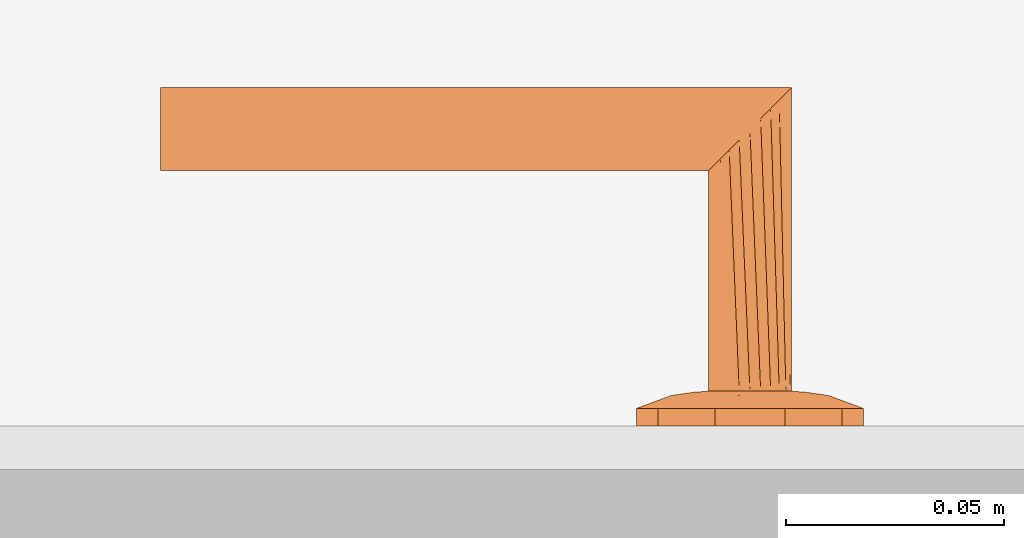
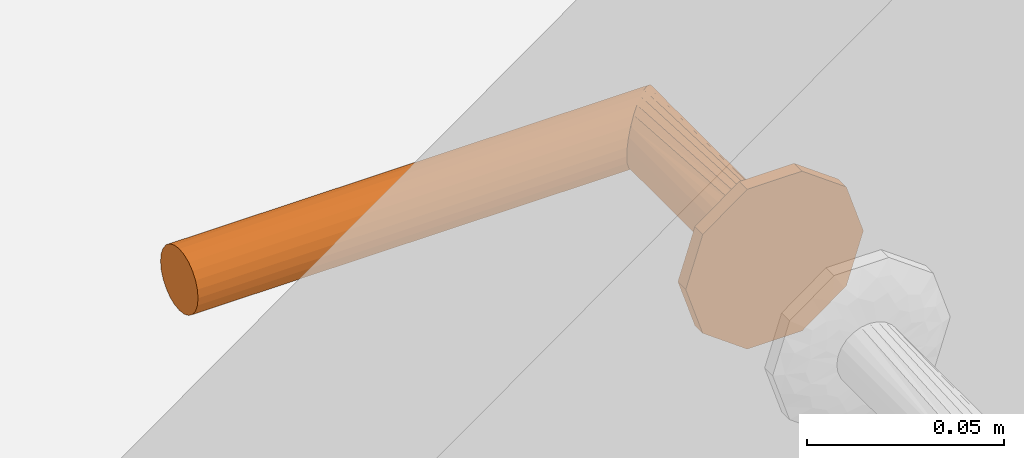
# One storey, part 36 of 42: 1 proxy.
"""IFC2X3 building model written with IfcOpenShell, lengths in millimetres."""

import ifcopenshell
import ifcopenshell.guid

model = None  # the IFC model being written
_history = None  # IfcOwnerHistory: only IFC2X3 demands one
_inside = {}  # id of a spatial element -> (the spatial element, [elements in it])
_under = {}  # id of a project, library or spatial element -> (it, [spatial elements below it])
_declared = {}  # id of a project -> (the project, [libraries it declares])
_typed = {}  # id of a type object -> (the type object, [elements of that type])
_made_of = {}  # id of a material, layer set ... -> (it, [elements and type objects made of it])


def new_model(schema):
    """Start an empty IFC model of exactly this schema.

    Asked for "IFC4X3", IfcOpenShell would pick the latest addendum, in which some entities
    have other attributes; the version numbers below select the first issue.
    IFC2X3 requires an IfcOwnerHistory on every rooted entity: one is made here for all.
    """
    global model, _history
    if schema == "IFC4X3":
        model = ifcopenshell.file(schema_version=(4, 3, 0, 0))
    else:
        model = ifcopenshell.file(schema=schema)
    _inside.clear()
    _under.clear()
    _declared.clear()
    _typed.clear()
    _made_of.clear()
    _history = None
    if model.schema == "IFC2X3":
        org = make("IfcOrganization", Name="unknown")
        user = make(
            "IfcPersonAndOrganization",
            ThePerson=make("IfcPerson", FamilyName="unknown"),
            TheOrganization=org,
        )
        app = make(
            "IfcApplication",
            ApplicationDeveloper=org,
            Version="unknown",
            ApplicationFullName="unknown",
            ApplicationIdentifier="unknown",
        )
        _history = make(
            "IfcOwnerHistory",
            OwningUser=user,
            OwningApplication=app,
            ChangeAction="ADDED",
            CreationDate=0,
        )
    return model


def make(cls, **values):
    """One entity of the class cls with the attributes given. An attribute that is None is left unset."""
    return model.create_entity(
        cls, **{name: value for name, value in values.items() if value is not None}
    )


def entity(cls, *values):
    """Any entity or typed value of the class cls, its attributes in the order of the schema. None: left unset."""
    e = model.create_entity(cls)
    for i, value in enumerate(values):
        if value is not None:
            e[i] = value
    return e


def rooted(cls, **values):
    """An entity with a GlobalId (a new one), such as an element, a storey or a relation."""
    return make(cls, GlobalId=ifcopenshell.guid.new(), OwnerHistory=_history, **values)


def si_unit(unit_type, name, prefix=None):
    """IfcSIUnit, for example si_unit("LENGTHUNIT", "METRE", prefix="MILLI")."""
    return make("IfcSIUnit", UnitType=unit_type, Prefix=prefix, Name=name)


def converted_unit(unit_type, name, factor, base, dimensions=None, offset=None):
    """IfcConversionBasedUnit, such as the inch: factor (a typed value) times the base unit."""
    return make(
        "IfcConversionBasedUnit"
        if offset is None
        else "IfcConversionBasedUnitWithOffset",
        ConversionOffset=offset,
        Dimensions=None
        if dimensions is None
        else entity("IfcDimensionalExponents", *dimensions),
        UnitType=unit_type,
        Name=name,
        ConversionFactor=make(
            "IfcMeasureWithUnit", ValueComponent=factor, UnitComponent=base
        ),
    )


def assignment(units):
    """IfcUnitAssignment: the units of a project."""
    return None if units is None else make("IfcUnitAssignment", Units=units)


def point(xyz):
    """IfcCartesianPoint."""
    return None if xyz is None else make("IfcCartesianPoint", Coordinates=xyz)


def direction(xyz):
    """IfcDirection."""
    return None if xyz is None else make("IfcDirection", DirectionRatios=xyz)


def frame(location, z_axis=None, x_axis=None):
    """IfcAxis2Placement3D, a coordinate frame: its origin and axes. An axis left out is left unset."""
    return make(
        "IfcAxis2Placement3D",
        Location=point(location),
        Axis=direction(z_axis),
        RefDirection=direction(x_axis),
    )


def origin():
    """The frame at (0, 0, 0) with its axes left unset."""
    return frame((0.0, 0.0, 0.0))


def place(relative_to, where):
    """IfcLocalPlacement: puts the frame where relative to a parent placement (None: the world)."""
    return make(
        "IfcLocalPlacement", PlacementRelTo=relative_to, RelativePlacement=where
    )


def context(
    kind, dimensions, precision=None, world=None, true_north=None, identifier=None
):
    """IfcGeometricRepresentationContext, for example the 3D "Model" context."""
    return make(
        "IfcGeometricRepresentationContext",
        ContextIdentifier=identifier,
        ContextType=kind,
        CoordinateSpaceDimension=dimensions,
        Precision=precision,
        WorldCoordinateSystem=world,
        TrueNorth=true_north,
    )


def subcontext(parent, identifier, kind, view, scale=None):
    """IfcGeometricRepresentationSubContext, for example "Body" below "Model"."""
    return make(
        "IfcGeometricRepresentationSubContext",
        ContextIdentifier=identifier,
        ContextType=kind,
        ParentContext=parent,
        TargetScale=scale,
        TargetView=view,
    )


def project(units=None, contexts=None):
    """IfcProject with its units and contexts."""
    return rooted(
        "IfcProject",
        Name="project",
        RepresentationContexts=contexts,
        UnitsInContext=assignment(units),
    )


def spatial(cls, under=None, at=None, **own):
    """A site, building, storey or space (cls), placed at a placement, below another one or the project."""
    s = rooted(cls, ObjectPlacement=at, **own)
    if under is not None:
        _under.setdefault(under.id(), (under, []))[1].append(s)
    return s


def faces_of(points, faces, orient=None, outer=None):
    """IfcFace entities. A face is a list of loops; a loop is a list of indices into points, from 0.

    orient and outer hold one flag for each loop. By default every Orientation is true, the
    first loop of a face is its IfcFaceOuterBound and the others are IfcFaceBound.
    """
    made = []
    for i, loops in enumerate(faces):
        bounds = []
        for j, loop in enumerate(loops):
            is_outer = j == 0 if outer is None else outer[i][j]
            bounds.append(
                make(
                    "IfcFaceOuterBound" if is_outer else "IfcFaceBound",
                    Bound=make("IfcPolyLoop", Polygon=[points[k] for k in loop]),
                    Orientation=True if orient is None else orient[i][j],
                )
            )
        made.append(make("IfcFace", Bounds=bounds))
    return made


def faceted_brep(points, faces, orient=None, outer=None, voids=None):
    """IfcFacetedBrep: a solid bounded by flat faces; with voids (closed shells), ...WithVoids."""
    shared = [point(p) for p in points]
    hull = make("IfcClosedShell", CfsFaces=faces_of(shared, faces, orient, outer))
    if voids is None:
        return make("IfcFacetedBrep", Outer=hull)
    return make(
        "IfcFacetedBrepWithVoids",
        Outer=hull,
        Voids=[
            make(cls, CfsFaces=faces_of(shared, fs, o, b)) for cls, fs, o, b in voids
        ],
    )


def shape(context_of_items, identifier, shape_type, items):
    """IfcShapeRepresentation: the items that make up one representation, for example the "Body"."""
    return make(
        "IfcShapeRepresentation",
        ContextOfItems=context_of_items,
        RepresentationIdentifier=identifier,
        RepresentationType=shape_type,
        Items=items,
    )


def source(mapping_origin, context_of_items, identifier, shape_type, items):
    """IfcRepresentationMap: a shape defined once, which mapped items show again and again."""
    return make(
        "IfcRepresentationMap",
        MappingOrigin=mapping_origin,
        MappedRepresentation=shape(context_of_items, identifier, shape_type, items),
    )


def transform(
    local_origin,
    x_axis=None,
    y_axis=None,
    z_axis=None,
    scale=None,
    scale2=None,
    scale3=None,
    uniform=True,
):
    """IfcCartesianTransformationOperator3D, or its non-uniform kind. x_axis, y_axis, z_axis: its Axis1, 2, 3."""
    if uniform:
        return make(
            "IfcCartesianTransformationOperator3D",
            Axis1=direction(x_axis),
            Axis2=direction(y_axis),
            LocalOrigin=point(local_origin),
            Scale=scale,
            Axis3=direction(z_axis),
        )
    return make(
        "IfcCartesianTransformationOperator3DnonUniform",
        Axis1=direction(x_axis),
        Axis2=direction(y_axis),
        LocalOrigin=point(local_origin),
        Scale=scale,
        Axis3=direction(z_axis),
        Scale2=scale2,
        Scale3=scale3,
    )


def mapped(mapping_source, mapping_target):
    """IfcMappedItem: shows the shape of a source again, moved by a transform."""
    return make(
        "IfcMappedItem", MappingSource=mapping_source, MappingTarget=mapping_target
    )


def material(Name=None, Category=None):
    """IfcMaterial."""
    return make("IfcMaterial", Name=Name, Category=Category)


def made_of(thing, what):
    """Note that an element or type object is made of a material, layer set ...; save() writes the relation."""
    if what is not None:
        _made_of.setdefault(what.id(), (what, []))[1].append(thing)
    return thing


def type_object(cls, material=None, **own):
    """A type object (cls), such as IfcWallType, which elements share."""
    return made_of(rooted(cls, **own), material)


def type_shapes(of_type, sources):
    """Give a type object the sources (RepresentationMaps) that its elements show as mapped items."""
    of_type.RepresentationMaps = sources


def element(
    cls,
    number,
    at=None,
    inside=None,
    cuts=None,
    type_object=None,
    material=None,
    context=None,
    identifier="Body",
    shape_type=None,
    held_by="IfcProductDefinitionShape",
    body=None,
    shapes=None,
    **own,
):
    """One element of the class cls, such as IfcWall. Its Tag is "e" and its number.

    at: its placement. inside: the storey or other place that contains it. cuts: it is an
    opening in that element (IfcRelVoidsElement). A single representation is given by context,
    identifier, shape_type and body (its items); several are given by shapes. held_by: the class
    of the entity that holds the representations. save() writes the other relations.
    """
    e = rooted(cls, Tag="e%d" % number, ObjectPlacement=at, **own)
    if body is not None:
        shapes = [shape(context, identifier, shape_type, body)]
    if shapes is not None:
        e.Representation = make(held_by, Representations=shapes)
    if inside is not None:
        _inside.setdefault(inside.id(), (inside, []))[1].append(e)
    if cuts is not None:
        rooted(
            "IfcRelVoidsElement", RelatingBuildingElement=cuts, RelatedOpeningElement=e
        )
    if type_object is not None:
        _typed.setdefault(type_object.id(), (type_object, []))[1].append(e)
    return made_of(e, material)


def aggregate(whole, parts):
    """IfcRelAggregates: a whole, such as a stair, and the parts it consists of."""
    return rooted("IfcRelAggregates", RelatingObject=whole, RelatedObjects=parts)


def save(model, path):
    """Write the relations noted so far, then the file.

    IfcRelAggregates (storeys below a building ...), IfcRelContainedInSpatialStructure (elements
    in a storey), IfcRelDefinesByType, IfcRelAssociatesMaterial and IfcRelDeclares: one each for
    every whole, place, type object, material and project.
    """
    for whole, parts in _under.values():
        aggregate(whole, parts)
    for where, things in _inside.values():
        rooted(
            "IfcRelContainedInSpatialStructure",
            RelatedElements=things,
            RelatingStructure=where,
        )
    for kind, things in _typed.values():
        rooted("IfcRelDefinesByType", RelatedObjects=things, RelatingType=kind)
    for what, things in _made_of.values():
        rooted("IfcRelAssociatesMaterial", RelatedObjects=things, RelatingMaterial=what)
    for by, libraries in _declared.values():
        rooted("IfcRelDeclares", RelatingContext=by, RelatedDefinitions=libraries)
    model.write(path)


model = new_model("IFC2X3")

# Units and contexts
model_context = context("Model", 3, precision=0.01, world=origin(), true_north=direction((6.123233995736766e-17, 1.0)))
plan_context = context("Plan", 3, precision=0.01, world=origin(), true_north=direction((6.123233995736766e-17, 1.0)))
body_context = subcontext(model_context, "Body", "Model", "MODEL_VIEW")
ifc_project = project(units=[si_unit("LENGTHUNIT", "METRE", prefix="MILLI"), converted_unit("PLANEANGLEUNIT", "DEGREE", entity("IfcPlaneAngleMeasure", 0.017453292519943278), si_unit("PLANEANGLEUNIT", "RADIAN"), dimensions=[0, 0, 0, 0, 0, 0, 0]), si_unit("AREAUNIT", "SQUARE_METRE")], contexts=[model_context, plan_context])

# Site, building, storey, space
site_placement = place(None, origin())
site = spatial("IfcSite", under=ifc_project, at=site_placement, Name="Default", CompositionType="ELEMENT")
building_placement = place(site_placement, origin())
building = spatial("IfcBuilding", under=site, at=building_placement, CompositionType="ELEMENT")
storey_placement = place(building_placement, frame((0.0, 0.0, 9465.000076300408)))
storey = spatial("IfcBuildingStorey", under=building, at=storey_placement, Name="4K", CompositionType="ELEMENT", Elevation=9465.000076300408)
space_placement = place(storey_placement, origin())
space = spatial("IfcSpace", under=storey, at=space_placement, Name="4-9.5", CompositionType="ELEMENT", InteriorOrExteriorSpace="INTERNAL")

# Proxy
ifc_material = material(Name="<Unnamed>")
building_element_proxy_type = type_object("IfcBuildingElementProxyType", Name="Door-handle_Lever_ABLOY_INOXI_3-19ss-002_RT:Default", PredefinedType="NOTDEFINED", material=ifc_material)
shared_shape = source(origin(), body_context, "Body", "Brep", [
    faceted_brep([(0.0, 0.0, 0.0), (8.034441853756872, 24.72746942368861, 0.0), (14.534441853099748, 20.00494299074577, 0.0), (21.034441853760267, 15.282416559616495, 0.0), (23.51722092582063, 7.641208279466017, 0.0), (26.0, 0.0, 0.0), (23.517220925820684, -7.641208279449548, 0.0), (0.0, 24.72746942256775, 0.0), (-8.034441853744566, 24.727469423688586, 0.0), (-14.534441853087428, 20.00494299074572, 0.0), (-21.03444185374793, 15.282416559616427, 0.0), (-23.517220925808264, 7.641208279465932, 0.0), (-26.0, 0.0, 0.0), (21.034441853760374, -15.282416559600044, 0.0), (14.534441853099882, -20.004942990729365, 0.0), (8.034441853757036, -24.72746942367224, 0.0), (0.0, -24.72746942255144, 0.0), (-23.517220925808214, -7.641208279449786, 0.0), (-21.034441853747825, -15.282416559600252, 0.0), (-14.53444185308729, -20.004942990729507, 0.0), (-8.0344418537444, -24.72746942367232, 0.0), (0.0, 0.0, 8.0), (9.500000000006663, 0.0, 8.0), (8.312500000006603, 2.056810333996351, 8.0), (7.125000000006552, 4.113620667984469, 8.0), (5.937500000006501, 6.170431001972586, 8.0), (4.7500000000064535, 8.227241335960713, 8.0), (2.375000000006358, 8.2272413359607, 8.0), (0.0, 8.227241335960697, 8.0), (-2.3749999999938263, 8.227241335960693, 8.0), (-4.749999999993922, 8.227241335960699, 8.0), (-5.937499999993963, 6.1704310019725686, 8.0), (-7.124999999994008, 4.1136206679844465, 8.0), (-8.312499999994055, 2.0568103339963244, 8.0), (-9.499999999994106, 0.0, 8.0), (-8.31249999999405, -2.0568103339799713, 8.0), (8.312500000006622, -2.0568103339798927, 8.0), (7.125000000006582, -4.113620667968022, 8.0), (5.937500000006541, -6.170431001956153, 8.0), (4.750000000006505, -8.227241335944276, 8.0), (-7.124999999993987, -4.113620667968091, 8.0), (-5.9374999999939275, -6.17043100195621, 8.0), (-4.74999999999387, -8.227241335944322, 8.0), (-2.374999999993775, -8.227241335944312, 8.0), (0.0, -8.227241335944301, 8.0), (2.3750000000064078, -8.227241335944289, 8.0), (-20.6430713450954, 6.292822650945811, 5.929480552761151), (-16.663919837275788, 7.932665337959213, 6.877259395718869), (-22.48876527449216, 10.806469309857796, 4.030771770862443), (-16.764060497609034, 3.8202578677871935, 7.1747985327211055), (-12.504579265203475, 5.179566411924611, 7.774932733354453), (-11.979136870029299, 13.678312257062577, 6.945778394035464), (-11.963426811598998, 8.62529041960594, 7.618343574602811), (-9.07172672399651, 10.31160661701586, 7.7520782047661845), (8.03444185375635, 24.727469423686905, 4.030771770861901), (0.0, 24.72746942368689, 4.030771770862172), (5.758554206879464, 20.96753300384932, 5.871476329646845), (20.643071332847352, 6.292822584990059, 5.929480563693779), (22.488765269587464, 10.806469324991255, 4.03077177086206), (16.66391982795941, 7.9326653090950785, 6.877259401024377), (9.49943163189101, 18.6436835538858, 6.154325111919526), (14.534441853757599, 20.004942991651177, 4.030771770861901), (-14.534441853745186, 20.00494299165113, 4.030771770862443), (-21.034441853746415, 15.282416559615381, 4.030771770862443), (-15.783149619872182, 11.991003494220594, 6.50080018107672), (-23.943088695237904, 6.330522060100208, 4.030771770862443), (-23.012042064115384, 0.0, 5.135401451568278), (12.50457924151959, 5.179566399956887, 7.774932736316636), (11.963426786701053, 8.625290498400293, 7.618343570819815), (16.76406041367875, 3.820257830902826, 7.17479855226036), (15.783149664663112, 11.991003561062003, 6.50080015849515), (23.01204200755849, 0.0, 5.135401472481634), (17.9853516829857, 0.0, 6.993737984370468), (8.661516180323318, 10.478936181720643, 7.768126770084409), (-3.3573143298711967, 21.197247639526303, 5.971427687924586), (-8.03444185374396, 24.727469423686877, 4.030771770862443), (-7.711266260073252, 12.76034452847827, 7.594456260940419), (-5.97325794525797, 16.43013906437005, 7.110979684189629), (-9.94191586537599, 17.061976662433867, 6.522757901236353), (11.979136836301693, 13.678312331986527, 6.945778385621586), (5.953298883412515, 16.50608604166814, 7.096344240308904), (7.511307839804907, 13.358932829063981, 7.529187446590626), (-1.5654593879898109, 15.307443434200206, 7.519134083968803), (-7.784980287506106, 20.476295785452, 5.812837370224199), (2.8135289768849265, 17.763922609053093, 6.993737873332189), (-17.985351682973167, 0.0, 6.993737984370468), (-26.0, 0.0, 4.030771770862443), (-23.51722092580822, 7.641208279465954, 4.030771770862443), (26.0, 0.0, 4.030771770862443), (24.308823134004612, 5.204907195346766, 4.030771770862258), (23.943088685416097, 6.330522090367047, 4.030771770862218), (21.03444185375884, 15.282416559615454, 4.030771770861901), (22.617646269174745, 10.40981439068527, 4.030771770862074), (20.6430713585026, -6.292822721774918, 5.929480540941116), (16.663919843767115, -7.932665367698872, 6.877259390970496), (22.48876527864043, -10.8064692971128, 4.030771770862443), (16.764060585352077, -3.8202579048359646, 7.174798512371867), (12.504579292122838, -5.17956641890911, 7.774932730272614), (11.979136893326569, -13.678312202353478, 6.9457784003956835), (11.963426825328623, -8.62529034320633, 7.618343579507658), (9.071726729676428, -10.311606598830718, 7.752078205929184), (-8.03444185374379, -24.727469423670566, 4.030771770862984), (0.0, -24.727469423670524, 4.030771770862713), (-5.758554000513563, -20.96753314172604, 5.8714763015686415), (-20.643071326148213, -6.292822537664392, 5.929480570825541), (-22.488765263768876, -10.80646934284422, 4.030771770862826), (-16.66391981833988, -7.932665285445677, 6.877259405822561), (-9.499431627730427, -18.643683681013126, 6.154325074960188), (-14.534441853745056, -20.004942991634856, 4.030771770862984), (14.53444185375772, -20.00494299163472, 4.030771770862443), (21.034441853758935, -15.282416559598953, 4.030771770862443), (15.783149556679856, -11.991003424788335, 6.5008002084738), (23.943088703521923, -6.330522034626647, 4.030771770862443), (-12.504579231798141, -5.17956638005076, 7.77493273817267), (-11.963426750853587, -8.625290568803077, 7.618343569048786), (-16.764060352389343, -3.8202577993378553, 7.174798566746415), (-15.783149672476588, -11.991003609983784, 6.500800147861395), (-8.661516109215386, -10.478936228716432, 7.768126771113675), (3.3573144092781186, -21.197247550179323, 5.971427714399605), (8.034441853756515, -24.727469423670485, 4.030771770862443), (7.711266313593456, -12.760344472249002, 7.5944562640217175), (5.9732581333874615, -16.430139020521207, 7.110979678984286), (9.941915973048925, -17.06197655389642, 6.522757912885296), (-11.979136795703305, -13.678312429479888, 6.945778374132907), (-5.953298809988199, -16.506086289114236, 7.096344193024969), (-7.511307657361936, -13.358932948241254, 7.5291874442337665), (1.5654596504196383, -15.3074431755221, 7.519134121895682), (7.784980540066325, -20.476295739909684, 5.812837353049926), (-2.81352881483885, -17.76392263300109, 6.993737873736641), (23.517220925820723, -7.64120827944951, 4.030771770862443), (-24.308823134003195, -5.20490719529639, 4.030771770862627), (-23.943088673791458, -6.330522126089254, 4.030771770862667), (-21.034441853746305, -15.282416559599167, 4.030771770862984), (-22.617646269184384, -10.409814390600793, 4.0307717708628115)], [[[0, 1, 2]], [[0, 2, 3]], [[0, 3, 4]], [[0, 4, 5]], [[0, 5, 6]], [[0, 7, 1]], [[0, 8, 7]], [[0, 9, 8]], [[0, 10, 9]], [[0, 11, 10]], [[0, 12, 11]], [[0, 6, 13]], [[0, 13, 14]], [[0, 14, 15]], [[0, 15, 16]], [[0, 17, 12]], [[0, 18, 17]], [[0, 19, 18]], [[0, 20, 19]], [[0, 16, 20]], [[21, 22, 23]], [[21, 23, 24]], [[21, 24, 25]], [[21, 25, 26]], [[21, 26, 27]], [[21, 27, 28]], [[21, 28, 29]], [[21, 29, 30]], [[21, 30, 31]], [[21, 31, 32]], [[21, 32, 33]], [[21, 33, 34]], [[21, 34, 35]], [[21, 36, 22]], [[21, 37, 36]], [[21, 38, 37]], [[21, 39, 38]], [[21, 35, 40]], [[21, 40, 41]], [[21, 41, 42]], [[21, 42, 43]], [[21, 43, 44]], [[21, 44, 45]], [[21, 45, 39]], [[46, 47, 48]], [[49, 50, 47]], [[33, 32, 50]], [[51, 52, 53]], [[32, 52, 50]], [[49, 47, 46]], [[54, 55, 56]], [[57, 58, 59]], [[60, 61, 54]], [[62, 63, 64]], [[46, 65, 66]], [[67, 59, 68]], [[23, 69, 67]], [[70, 68, 59]], [[23, 22, 69]], [[52, 51, 64]], [[71, 69, 72]], [[73, 25, 68]], [[74, 55, 75]], [[76, 77, 78]], [[70, 61, 79]], [[71, 57, 69]], [[60, 80, 81]], [[51, 76, 78]], [[77, 29, 82]], [[26, 81, 27]], [[74, 83, 77]], [[77, 82, 74]], [[74, 84, 55]], [[34, 49, 85]], [[23, 67, 24]], [[28, 84, 82]], [[74, 82, 84]], [[29, 76, 30]], [[29, 28, 82]], [[49, 34, 33]], [[47, 50, 52]], [[47, 52, 64]], [[50, 49, 33]], [[53, 76, 51]], [[52, 32, 31]], [[49, 66, 85]], [[86, 66, 65]], [[24, 67, 68]], [[83, 78, 77]], [[49, 46, 66]], [[48, 64, 63]], [[46, 48, 87, 65]], [[48, 47, 64]], [[59, 67, 69]], [[26, 73, 81]], [[79, 68, 70]], [[25, 24, 68]], [[71, 88, 89, 90]], [[22, 72, 69]], [[59, 69, 57]], [[79, 61, 60]], [[51, 62, 64]], [[70, 58, 91]], [[90, 57, 71]], [[58, 70, 59]], [[57, 90, 92]], [[79, 60, 81]], [[61, 70, 91]], [[56, 80, 60]], [[79, 81, 73]], [[80, 84, 27]], [[79, 73, 68]], [[27, 84, 28]], [[25, 73, 26]], [[77, 76, 29]], [[31, 30, 53]], [[78, 62, 51]], [[75, 62, 83]], [[78, 83, 62]], [[75, 83, 74]], [[76, 53, 30]], [[31, 53, 52]], [[81, 80, 27]], [[84, 80, 56]], [[84, 56, 55]], [[54, 56, 60]], [[93, 94, 95]], [[96, 97, 94]], [[36, 37, 97]], [[98, 99, 100]], [[37, 99, 97]], [[96, 94, 93]], [[101, 102, 103]], [[104, 105, 106]], [[107, 108, 101]], [[109, 110, 111]], [[93, 112, 71]], [[113, 106, 114]], [[35, 115, 113]], [[116, 114, 106]], [[35, 34, 115]], [[99, 98, 111]], [[66, 115, 85]], [[117, 41, 114]], [[118, 102, 119]], [[120, 121, 122]], [[116, 108, 123]], [[66, 104, 115]], [[107, 124, 125]], [[120, 45, 121]], [[121, 45, 126]], [[42, 125, 43]], [[118, 127, 121]], [[121, 126, 118]], [[118, 128, 102]], [[22, 96, 72]], [[35, 113, 40]], [[44, 128, 126]], [[118, 126, 128]], [[45, 120, 39]], [[45, 44, 126]], [[96, 22, 36]], [[94, 97, 99]], [[94, 99, 111]], [[97, 96, 36]], [[100, 120, 98]], [[99, 37, 38]], [[96, 71, 72]], [[88, 71, 112]], [[40, 113, 114]], [[127, 122, 121]], [[96, 93, 71]], [[95, 111, 110]], [[93, 95, 129, 112]], [[95, 94, 111]], [[106, 113, 115]], [[42, 117, 125]], [[123, 114, 116]], [[41, 40, 114]], [[66, 86, 130, 131]], [[34, 85, 115]], [[106, 115, 104]], [[123, 108, 107]], [[98, 109, 111]], [[116, 105, 132]], [[131, 104, 66]], [[105, 116, 106]], [[104, 131, 133]], [[123, 107, 125]], [[108, 116, 132]], [[103, 124, 107]], [[123, 125, 117]], [[124, 128, 43]], [[123, 117, 114]], [[43, 128, 44]], [[41, 117, 42]], [[38, 39, 100]], [[98, 120, 122]], [[122, 109, 98]], [[119, 109, 127]], [[122, 127, 109]], [[119, 127, 118]], [[120, 100, 39]], [[38, 100, 99]], [[125, 124, 43]], [[128, 124, 103]], [[128, 103, 102]], [[101, 103, 107]], [[9, 10, 63, 62, 75, 8]], [[11, 12, 86, 65, 87, 48, 63, 10]], [[4, 3, 92, 90, 89, 88, 5]], [[3, 91, 58]], [[55, 54, 1, 7, 8, 75]], [[3, 2, 1, 54, 61, 91]], [[13, 6, 5, 88, 112, 129, 95, 110]], [[119, 15, 14, 13, 110, 109]], [[17, 18, 133, 131, 130, 86, 12]], [[18, 132, 105]], [[102, 101, 20, 16, 15, 119]], [[18, 19, 20, 101, 108, 132]], [[57, 92, 58]], [[104, 133, 105]], [[3, 58, 92]], [[18, 105, 133]]]),
    faceted_brep([(0.0, 9.499999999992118, 8.0), (2.4587809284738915, 9.176295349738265, 8.0), (4.7499999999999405, 8.22724133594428, 8.0), (6.717514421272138, 6.7175144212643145, 8.0), (8.227241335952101, 4.749999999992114, 8.0), (9.17629534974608, 2.458780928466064, 8.0), (9.499999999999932, 0.0, 8.0), (9.17629534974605, -2.458780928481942, 8.0), (8.22724133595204, -4.75000000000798, 8.0), (6.717514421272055, -6.717514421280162, 8.0), (4.7499999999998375, -8.227241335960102, 8.0), (2.4587809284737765, -9.176295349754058, 8.0), (0.0, -9.500000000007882, 8.0), (-2.4587809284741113, -9.176295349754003, 8.0), (-4.750000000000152, -8.227241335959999, 8.0), (-6.717514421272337, -6.717514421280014, 8.0), (-8.227241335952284, -4.750000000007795, 8.0), (-9.176295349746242, -2.458780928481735, 8.0), (-9.500000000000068, 0.0, 8.0), (-9.176295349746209, 2.4587809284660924, 8.0), (-8.227241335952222, 4.74999999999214, 8.0), (-6.717514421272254, 6.717514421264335, 8.0), (-4.7500000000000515, 8.227241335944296, 8.0), (-2.4587809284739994, 9.176295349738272, 8.0), (-6.717514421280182, -6.7175144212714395, 61.282485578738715), (-8.227241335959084, -4.7499999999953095, 59.772758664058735), (-9.176295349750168, -2.458780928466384, 58.82370465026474), (-2.4587809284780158, -9.176295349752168, 65.54121907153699), (-4.750000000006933, -8.227241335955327, 63.25000000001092), (-9.500000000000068, 0.0, 58.50000000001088), (0.0, -9.50000000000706, 68.0), (2.4587809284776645, -9.17629534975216, 70.45878092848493), (4.750000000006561, -8.227241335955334, 72.75000000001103), (6.717514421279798, -6.7175144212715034, 74.71751442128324), (9.17629534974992, -2.458780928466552, 77.17629534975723), (8.22724133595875, -4.749999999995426, 76.22724133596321), (9.499999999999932, 0.0, 77.50000000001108), (9.176295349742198, 2.4587809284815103, 77.1762953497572), (8.227241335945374, 4.750000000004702, 76.22724133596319), (4.749999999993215, 8.227241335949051, 72.75000000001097), (6.7175144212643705, 6.717514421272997, 74.7175144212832), (2.4587809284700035, 9.17629534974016, 70.45878092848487), (-2.4587809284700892, 9.176295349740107, 65.54121907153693), (0.0, 9.49999999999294, 68.0), (-6.717514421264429, 6.717514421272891, 61.282485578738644), (-4.749999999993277, 8.227241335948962, 63.250000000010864), (-9.176295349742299, 2.458780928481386, 58.8237046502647), (-8.227241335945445, 4.750000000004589, 59.77275866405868), (-135.0, 9.500000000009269, 68.0), (-135.0, 9.176295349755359, 65.54121907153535), (-135.0, 8.227241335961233, 63.25000000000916), (-135.0, 6.7175144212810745, 61.28248557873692), (-135.0, 4.750000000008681, 59.772758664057), (-135.0, 2.458780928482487, 58.82370465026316), (-135.0, 0.0, 58.50000000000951), (-135.0, -2.458780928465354, 58.823704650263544), (-135.0, -4.749999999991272, 59.772758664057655), (-135.0, -6.717514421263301, 61.28248557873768), (-135.0, -8.227241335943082, 63.250000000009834), (-135.0, -9.17629534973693, 65.54121907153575), (-135.0, -9.499999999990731, 68.0), (-135.0, -9.17629534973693, 70.45878092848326), (-135.0, -8.227241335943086, 72.75000000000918), (-135.0, -6.717514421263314, 74.71751442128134), (-135.0, -4.749999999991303, 76.22724133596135), (-135.0, -2.4587809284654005, 77.17629534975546), (-135.0, 0.0, 77.5000000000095), (-135.0, 2.4587809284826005, 77.17629534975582), (-135.0, 4.750000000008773, 76.22724133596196), (-135.0, 6.717514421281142, 74.71751442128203), (-135.0, 8.227241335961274, 72.75000000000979), (-135.0, 9.176295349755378, 70.4587809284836)], [[[0, 1, 2, 3, 4, 5, 6, 7, 8, 9, 10, 11, 12, 13, 14, 15, 16, 17, 18, 19, 20, 21, 22, 23]], [[15, 24, 25, 16]], [[16, 25, 26, 17]], [[27, 28, 12]], [[12, 28, 13]], [[13, 28, 24]], [[18, 17, 26, 29]], [[24, 15, 14]], [[14, 13, 24]], [[11, 30, 27]], [[31, 9, 32]], [[32, 8, 33]], [[34, 35, 7]], [[7, 35, 33]], [[36, 34, 7, 6]], [[30, 11, 10]], [[11, 27, 12]], [[33, 8, 7]], [[8, 32, 9]], [[31, 10, 9]], [[10, 31, 30]], [[37, 36, 6, 5]], [[37, 5, 38]], [[39, 40, 4]], [[5, 40, 38]], [[41, 39, 3]], [[5, 4, 40]], [[42, 43, 1]], [[2, 1, 43]], [[2, 41, 3]], [[39, 4, 3]], [[2, 43, 41]], [[23, 44, 45]], [[0, 45, 42]], [[19, 18, 29, 46]], [[20, 19, 46, 47]], [[21, 20, 47, 44]], [[23, 22, 44]], [[45, 0, 23]], [[44, 22, 21]], [[1, 0, 42]], [[48, 49, 50, 51, 52, 53, 54, 55, 56, 57, 58, 59, 60, 61, 62, 63, 64, 65, 66, 67, 68, 69, 70, 71]], [[26, 25, 56, 55]], [[29, 26, 55, 54]], [[28, 27, 59, 58]], [[24, 28, 58, 57]], [[25, 24, 57, 56]], [[27, 30, 60, 59]], [[32, 33, 63, 62]], [[31, 32, 62, 61]], [[34, 36, 66, 65]], [[35, 34, 65, 64]], [[33, 35, 64, 63]], [[61, 60, 30, 31]], [[38, 68, 67, 37]], [[37, 67, 66, 36]], [[41, 71, 70, 39]], [[39, 70, 69, 40]], [[40, 69, 68, 38]], [[48, 71, 41, 43]], [[44, 51, 50, 45]], [[45, 50, 49, 42]], [[29, 54, 53, 46]], [[46, 53, 52, 47]], [[47, 52, 51, 44]], [[42, 49, 48, 43]]]),
])
type_shapes(building_element_proxy_type, [shared_shape])
proxy_placement = place(space_placement, frame((9174.0, 12056.0, 1000.0), z_axis=(0.0, 1.0, 0.0), x_axis=(1.0, 0.0, 0.0)))
element("IfcBuildingElementProxy", 1, at=proxy_placement, inside=space, type_object=building_element_proxy_type, material=ifc_material, Name="Door-handle_Lever_ABLOY_INOXI_3-19ss-002_RT:Default", ObjectType="Door-handle_Lever_ABLOY_INOXI_3-19ss-002_RT:Default", context=body_context, shape_type="MappedRepresentation", body=[
    mapped(shared_shape, transform((0.0, 0.0, 0.0), scale=1.0)),
])

save(model, "model.ifc")
